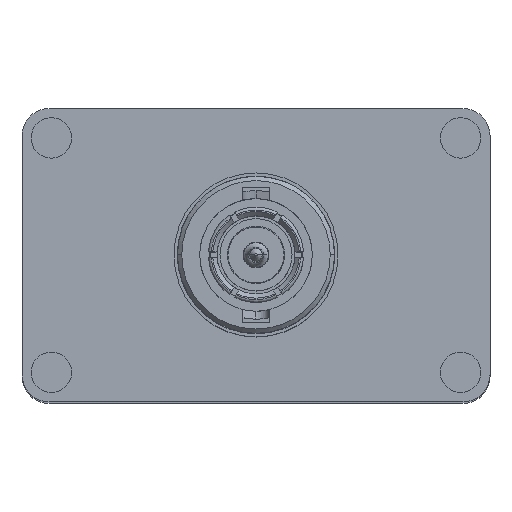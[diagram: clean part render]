
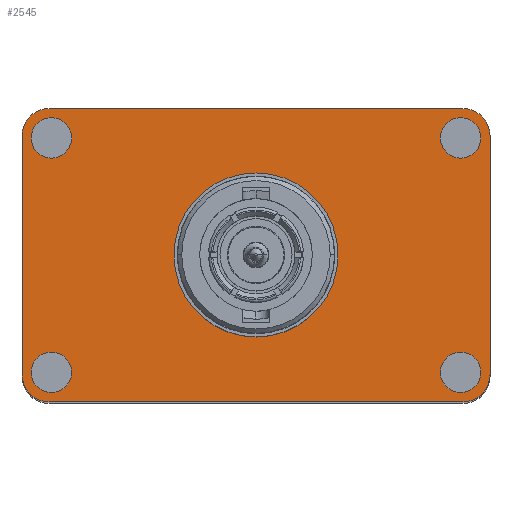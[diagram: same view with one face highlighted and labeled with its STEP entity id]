
A CAD part, top view. The second image highlights one B-rep face of the part: STEP entity #2545.
In plain terms, the highlighted planar face has unit normal (0, 0, 1).
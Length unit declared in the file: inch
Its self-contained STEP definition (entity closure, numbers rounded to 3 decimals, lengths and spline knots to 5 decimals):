
#2052=DIRECTION('',(0.,-1.,0.));
#2053=VECTOR('',#2052,0.828);
#2054=CARTESIAN_POINT('',(-1.527,0.828,0.125));
#2055=LINE('',#2054,#2053);
#2059=CARTESIAN_POINT('',(-1.433,0.828,0.125));
#2060=DIRECTION('',(0.,0.,1.));
#2061=DIRECTION('',(0.,1.,0.));
#2062=AXIS2_PLACEMENT_3D('',#2059,#2060,#2061);
#2067=DIRECTION('',(-1.,0.,0.));
#2068=VECTOR('',#2067,1.433);
#2069=CARTESIAN_POINT('',(0.,0.922,0.125));
#2070=LINE('',#2069,#2068);
#2074=CARTESIAN_POINT('',(0.,0.828,0.125));
#2075=DIRECTION('',(0.,0.,1.));
#2076=DIRECTION('',(1.,0.,0.));
#2077=AXIS2_PLACEMENT_3D('',#2074,#2075,#2076);
#2082=DIRECTION('',(0.,1.,0.));
#2083=VECTOR('',#2082,0.828);
#2084=CARTESIAN_POINT('',(0.094,0.,0.125));
#2085=LINE('',#2084,#2083);
#2089=CARTESIAN_POINT('',(0.,0.,0.125));
#2090=DIRECTION('',(0.,0.,1.));
#2091=DIRECTION('',(0.,-1.,0.));
#2092=AXIS2_PLACEMENT_3D('',#2089,#2090,#2091);
#2097=DIRECTION('',(1.,0.,0.));
#2098=VECTOR('',#2097,1.433);
#2099=CARTESIAN_POINT('',(-1.433,-0.094,0.125));
#2100=LINE('',#2099,#2098);
#2104=CARTESIAN_POINT('',(-1.433,0.,0.125));
#2105=DIRECTION('',(0.,0.,1.));
#2106=DIRECTION('',(-1.,0.,0.));
#2107=AXIS2_PLACEMENT_3D('',#2104,#2105,#2106);
#2112=CARTESIAN_POINT('',(-1.425,0.82,0.125));
#2113=DIRECTION('',(0.,0.,-1.));
#2114=DIRECTION('',(-1.,0.,0.));
#2115=AXIS2_PLACEMENT_3D('',#2112,#2113,#2114);
#2120=CARTESIAN_POINT('',(-1.425,0.82,0.125));
#2121=DIRECTION('',(0.,0.,-1.));
#2122=DIRECTION('',(1.,0.,0.));
#2123=AXIS2_PLACEMENT_3D('',#2120,#2121,#2122);
#2128=CARTESIAN_POINT('',(-0.7165,0.414,0.125));
#2129=DIRECTION('',(0.,0.,-1.));
#2130=DIRECTION('',(-1.,0.,0.));
#2131=AXIS2_PLACEMENT_3D('',#2128,#2129,#2130);
#2136=CARTESIAN_POINT('',(-0.7165,0.414,0.125));
#2137=DIRECTION('',(0.,0.,-1.));
#2138=DIRECTION('',(1.,0.,0.));
#2139=AXIS2_PLACEMENT_3D('',#2136,#2137,#2138);
#2144=CARTESIAN_POINT('',(-1.425,0.008,0.125));
#2145=DIRECTION('',(0.,0.,-1.));
#2146=DIRECTION('',(-1.,0.,0.));
#2147=AXIS2_PLACEMENT_3D('',#2144,#2145,#2146);
#2152=CARTESIAN_POINT('',(-1.425,0.008,0.125));
#2153=DIRECTION('',(0.,0.,-1.));
#2154=DIRECTION('',(1.,0.,0.));
#2155=AXIS2_PLACEMENT_3D('',#2152,#2153,#2154);
#2160=CARTESIAN_POINT('',(-0.008,0.82,0.125));
#2161=DIRECTION('',(0.,0.,-1.));
#2162=DIRECTION('',(-1.,0.,0.));
#2163=AXIS2_PLACEMENT_3D('',#2160,#2161,#2162);
#2168=CARTESIAN_POINT('',(-0.008,0.82,0.125));
#2169=DIRECTION('',(0.,0.,-1.));
#2170=DIRECTION('',(1.,0.,0.));
#2171=AXIS2_PLACEMENT_3D('',#2168,#2169,#2170);
#2176=CARTESIAN_POINT('',(-0.008,0.008,0.125));
#2177=DIRECTION('',(0.,0.,-1.));
#2178=DIRECTION('',(-1.,0.,0.));
#2179=AXIS2_PLACEMENT_3D('',#2176,#2177,#2178);
#2184=CARTESIAN_POINT('',(-0.008,0.008,0.125));
#2185=DIRECTION('',(0.,0.,-1.));
#2186=DIRECTION('',(1.,0.,0.));
#2187=AXIS2_PLACEMENT_3D('',#2184,#2185,#2186);
#2278=CARTESIAN_POINT('',(-1.527,0.828,0.125));
#2279=CARTESIAN_POINT('',(-1.527,0.,0.125));
#2280=VERTEX_POINT('',#2278);
#2281=VERTEX_POINT('',#2279);
#2282=CARTESIAN_POINT('',(-1.433,-0.094,0.125));
#2283=VERTEX_POINT('',#2282);
#2284=CARTESIAN_POINT('',(0.,-0.094,0.125));
#2285=VERTEX_POINT('',#2284);
#2286=CARTESIAN_POINT('',(0.094,0.,0.125));
#2287=VERTEX_POINT('',#2286);
#2288=CARTESIAN_POINT('',(0.094,0.828,0.125));
#2289=VERTEX_POINT('',#2288);
#2290=CARTESIAN_POINT('',(0.,0.922,0.125));
#2291=VERTEX_POINT('',#2290);
#2292=CARTESIAN_POINT('',(-1.433,0.922,0.125));
#2293=VERTEX_POINT('',#2292);
#2298=CARTESIAN_POINT('',(-1.478,0.82,0.125));
#2299=CARTESIAN_POINT('',(-1.372,0.82,0.125));
#2300=VERTEX_POINT('',#2298);
#2301=VERTEX_POINT('',#2299);
#2306=CARTESIAN_POINT('',(-0.89495,0.414,0.125));
#2307=CARTESIAN_POINT('',(-0.53805,0.414,0.125));
#2308=VERTEX_POINT('',#2306);
#2309=VERTEX_POINT('',#2307);
#2314=CARTESIAN_POINT('',(-1.478,0.008,0.125));
#2315=CARTESIAN_POINT('',(-1.372,0.008,0.125));
#2316=VERTEX_POINT('',#2314);
#2317=VERTEX_POINT('',#2315);
#2322=CARTESIAN_POINT('',(-0.061,0.82,0.125));
#2323=CARTESIAN_POINT('',(0.045,0.82,0.125));
#2324=VERTEX_POINT('',#2322);
#2325=VERTEX_POINT('',#2323);
#2330=CARTESIAN_POINT('',(-0.061,0.008,0.125));
#2331=CARTESIAN_POINT('',(0.045,0.008,0.125));
#2332=VERTEX_POINT('',#2330);
#2333=VERTEX_POINT('',#2331);
#2500=CARTESIAN_POINT('',(0.,0.,0.125));
#2501=DIRECTION('',(0.,0.,1.));
#2502=DIRECTION('',(1.,0.,0.));
#2503=AXIS2_PLACEMENT_3D('',#2500,#2501,#2502);
#2504=PLANE('',#2503);
#2505=ORIENTED_EDGE('',*,*,#2396,.F.);
#2506=ORIENTED_EDGE('',*,*,#2411,.F.);
#2507=ORIENTED_EDGE('',*,*,#2425,.F.);
#2508=ORIENTED_EDGE('',*,*,#2439,.F.);
#2509=ORIENTED_EDGE('',*,*,#2453,.F.);
#2510=ORIENTED_EDGE('',*,*,#2467,.F.);
#2511=ORIENTED_EDGE('',*,*,#2481,.F.);
#2512=ORIENTED_EDGE('',*,*,#2494,.F.);
#2513=EDGE_LOOP('',(#2505,#2506,#2507,#2508,#2509,#2510,#2511,#2512));
#2514=FACE_OUTER_BOUND('',#2513,.F.);
#2516=ORIENTED_EDGE('',*,*,#2515,.F.);
#2518=ORIENTED_EDGE('',*,*,#2517,.F.);
#2519=EDGE_LOOP('',(#2516,#2518));
#2520=FACE_BOUND('',#2519,.F.);
#2522=ORIENTED_EDGE('',*,*,#2521,.F.);
#2524=ORIENTED_EDGE('',*,*,#2523,.F.);
#2525=EDGE_LOOP('',(#2522,#2524));
#2526=FACE_BOUND('',#2525,.F.);
#2528=ORIENTED_EDGE('',*,*,#2527,.F.);
#2530=ORIENTED_EDGE('',*,*,#2529,.F.);
#2531=EDGE_LOOP('',(#2528,#2530));
#2532=FACE_BOUND('',#2531,.F.);
#2534=ORIENTED_EDGE('',*,*,#2533,.F.);
#2536=ORIENTED_EDGE('',*,*,#2535,.F.);
#2537=EDGE_LOOP('',(#2534,#2536));
#2538=FACE_BOUND('',#2537,.F.);
#2540=ORIENTED_EDGE('',*,*,#2539,.F.);
#2542=ORIENTED_EDGE('',*,*,#2541,.F.);
#2543=EDGE_LOOP('',(#2540,#2542));
#2544=FACE_BOUND('',#2543,.F.);
#2545=ADVANCED_FACE('',(#2514,#2520,#2526,#2532,#2538,#2544),#2504,.T.);
#2063=CIRCLE('',#2062,0.094);
#2078=CIRCLE('',#2077,0.094);
#2093=CIRCLE('',#2092,0.094);
#2108=CIRCLE('',#2107,0.094);
#2116=CIRCLE('',#2115,0.053);
#2124=CIRCLE('',#2123,0.053);
#2132=CIRCLE('',#2131,0.17845);
#2140=CIRCLE('',#2139,0.17845);
#2148=CIRCLE('',#2147,0.053);
#2156=CIRCLE('',#2155,0.053);
#2164=CIRCLE('',#2163,0.053);
#2172=CIRCLE('',#2171,0.053);
#2180=CIRCLE('',#2179,0.053);
#2188=CIRCLE('',#2187,0.053);
#2396=EDGE_CURVE('',#2280,#2281,#2055,.T.);
#2411=EDGE_CURVE('',#2293,#2280,#2063,.T.);
#2425=EDGE_CURVE('',#2291,#2293,#2070,.T.);
#2439=EDGE_CURVE('',#2289,#2291,#2078,.T.);
#2453=EDGE_CURVE('',#2287,#2289,#2085,.T.);
#2467=EDGE_CURVE('',#2285,#2287,#2093,.T.);
#2481=EDGE_CURVE('',#2283,#2285,#2100,.T.);
#2494=EDGE_CURVE('',#2281,#2283,#2108,.T.);
#2515=EDGE_CURVE('',#2300,#2301,#2116,.T.);
#2517=EDGE_CURVE('',#2301,#2300,#2124,.T.);
#2521=EDGE_CURVE('',#2308,#2309,#2132,.T.);
#2523=EDGE_CURVE('',#2309,#2308,#2140,.T.);
#2527=EDGE_CURVE('',#2316,#2317,#2148,.T.);
#2529=EDGE_CURVE('',#2317,#2316,#2156,.T.);
#2533=EDGE_CURVE('',#2324,#2325,#2164,.T.);
#2535=EDGE_CURVE('',#2325,#2324,#2172,.T.);
#2539=EDGE_CURVE('',#2332,#2333,#2180,.T.);
#2541=EDGE_CURVE('',#2333,#2332,#2188,.T.);
